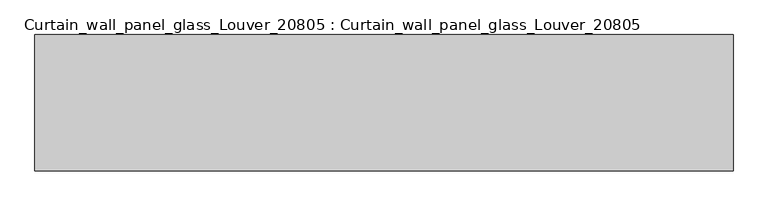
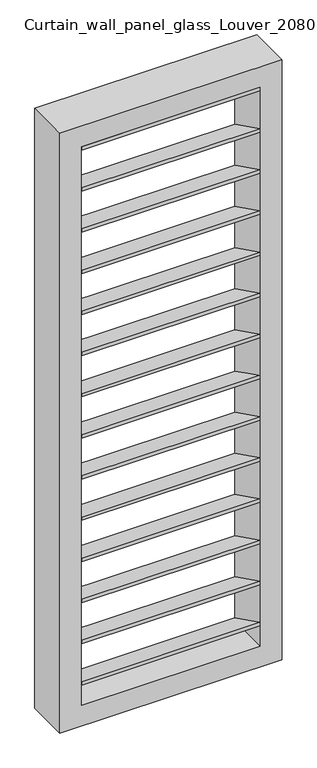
"""IFC4 building model written with IfcOpenShell, lengths in millimetres: plate geometry, Curtain_wall_panel_glass_Louver_20805 : Curtain_wall_panel_glass_Louver_20805."""

import ifcopenshell
import ifcopenshell.guid

model = None  # the IFC model being written
_history = None  # IfcOwnerHistory: only IFC2X3 demands one
_inside = {}  # id of a spatial element -> (the spatial element, [elements in it])
_under = {}  # id of a project, library or spatial element -> (it, [spatial elements below it])
_declared = {}  # id of a project -> (the project, [libraries it declares])
_typed = {}  # id of a type object -> (the type object, [elements of that type])
_made_of = {}  # id of a material, layer set ... -> (it, [elements and type objects made of it])


def new_model(schema):
    """Start an empty IFC model of exactly this schema.

    Asked for "IFC4X3", IfcOpenShell would pick the latest addendum, in which some entities
    have other attributes; the version numbers below select the first issue.
    IFC2X3 requires an IfcOwnerHistory on every rooted entity: one is made here for all.
    """
    global model, _history
    if schema == "IFC4X3":
        model = ifcopenshell.file(schema_version=(4, 3, 0, 0))
    else:
        model = ifcopenshell.file(schema=schema)
    _inside.clear()
    _under.clear()
    _declared.clear()
    _typed.clear()
    _made_of.clear()
    _history = None
    if model.schema == "IFC2X3":
        org = make("IfcOrganization", Name="unknown")
        user = make(
            "IfcPersonAndOrganization",
            ThePerson=make("IfcPerson", FamilyName="unknown"),
            TheOrganization=org,
        )
        app = make(
            "IfcApplication",
            ApplicationDeveloper=org,
            Version="unknown",
            ApplicationFullName="unknown",
            ApplicationIdentifier="unknown",
        )
        _history = make(
            "IfcOwnerHistory",
            OwningUser=user,
            OwningApplication=app,
            ChangeAction="ADDED",
            CreationDate=0,
        )
    return model


def make(cls, **values):
    """One entity of the class cls with the attributes given. An attribute that is None is left unset."""
    return model.create_entity(
        cls, **{name: value for name, value in values.items() if value is not None}
    )


def rooted(cls, **values):
    """An entity with a GlobalId (a new one), such as an element, a storey or a relation."""
    return make(cls, GlobalId=ifcopenshell.guid.new(), OwnerHistory=_history, **values)


def si_unit(unit_type, name, prefix=None):
    """IfcSIUnit, for example si_unit("LENGTHUNIT", "METRE", prefix="MILLI")."""
    return make("IfcSIUnit", UnitType=unit_type, Prefix=prefix, Name=name)


def assignment(units):
    """IfcUnitAssignment: the units of a project."""
    return None if units is None else make("IfcUnitAssignment", Units=units)


def point(xyz):
    """IfcCartesianPoint."""
    return None if xyz is None else make("IfcCartesianPoint", Coordinates=xyz)


def direction(xyz):
    """IfcDirection."""
    return None if xyz is None else make("IfcDirection", DirectionRatios=xyz)


def frame(location, z_axis=None, x_axis=None):
    """IfcAxis2Placement3D, a coordinate frame: its origin and axes. An axis left out is left unset."""
    return make(
        "IfcAxis2Placement3D",
        Location=point(location),
        Axis=direction(z_axis),
        RefDirection=direction(x_axis),
    )


def origin():
    """The frame at (0, 0, 0) with its axes left unset."""
    return frame((0.0, 0.0, 0.0))


def place(relative_to, where):
    """IfcLocalPlacement: puts the frame where relative to a parent placement (None: the world)."""
    return make(
        "IfcLocalPlacement", PlacementRelTo=relative_to, RelativePlacement=where
    )


def context(
    kind, dimensions, precision=None, world=None, true_north=None, identifier=None
):
    """IfcGeometricRepresentationContext, for example the 3D "Model" context."""
    return make(
        "IfcGeometricRepresentationContext",
        ContextIdentifier=identifier,
        ContextType=kind,
        CoordinateSpaceDimension=dimensions,
        Precision=precision,
        WorldCoordinateSystem=world,
        TrueNorth=true_north,
    )


def project(units=None, contexts=None):
    """IfcProject with its units and contexts."""
    return rooted(
        "IfcProject",
        Name="project",
        RepresentationContexts=contexts,
        UnitsInContext=assignment(units),
    )


def spatial(cls, under=None, at=None, **own):
    """A site, building, storey or space (cls), placed at a placement, below another one or the project."""
    s = rooted(cls, ObjectPlacement=at, **own)
    if under is not None:
        _under.setdefault(under.id(), (under, []))[1].append(s)
    return s


def polyline(points):
    """IfcPolyline through the points."""
    return make("IfcPolyline", Points=[point(p) for p in points])


def outline(outer, holes=None, kind="AREA"):
    """IfcArbitraryClosedProfileDef: a profile drawn as a closed curve; with holes, ...WithVoids."""
    if holes is None:
        return make("IfcArbitraryClosedProfileDef", ProfileType=kind, OuterCurve=outer)
    return make(
        "IfcArbitraryProfileDefWithVoids",
        ProfileType=kind,
        OuterCurve=outer,
        InnerCurves=holes,
    )


def extrude(swept, where, along, depth):
    """IfcExtrudedAreaSolid: the profile swept, set in the frame where, extruded along a direction by depth."""
    return make(
        "IfcExtrudedAreaSolid",
        SweptArea=swept,
        Position=where,
        ExtrudedDirection=direction(along),
        Depth=depth,
    )


def shape(context_of_items, identifier, shape_type, items):
    """IfcShapeRepresentation: the items that make up one representation, for example the "Body"."""
    return make(
        "IfcShapeRepresentation",
        ContextOfItems=context_of_items,
        RepresentationIdentifier=identifier,
        RepresentationType=shape_type,
        Items=items,
    )


def source(mapping_origin, context_of_items, identifier, shape_type, items):
    """IfcRepresentationMap: a shape defined once, which mapped items show again and again."""
    return make(
        "IfcRepresentationMap",
        MappingOrigin=mapping_origin,
        MappedRepresentation=shape(context_of_items, identifier, shape_type, items),
    )


def transform(
    local_origin,
    x_axis=None,
    y_axis=None,
    z_axis=None,
    scale=None,
    scale2=None,
    scale3=None,
    uniform=True,
):
    """IfcCartesianTransformationOperator3D, or its non-uniform kind. x_axis, y_axis, z_axis: its Axis1, 2, 3."""
    if uniform:
        return make(
            "IfcCartesianTransformationOperator3D",
            Axis1=direction(x_axis),
            Axis2=direction(y_axis),
            LocalOrigin=point(local_origin),
            Scale=scale,
            Axis3=direction(z_axis),
        )
    return make(
        "IfcCartesianTransformationOperator3DnonUniform",
        Axis1=direction(x_axis),
        Axis2=direction(y_axis),
        LocalOrigin=point(local_origin),
        Scale=scale,
        Axis3=direction(z_axis),
        Scale2=scale2,
        Scale3=scale3,
    )


def mapped(mapping_source, mapping_target):
    """IfcMappedItem: shows the shape of a source again, moved by a transform."""
    return make(
        "IfcMappedItem", MappingSource=mapping_source, MappingTarget=mapping_target
    )


def made_of(thing, what):
    """Note that an element or type object is made of a material, layer set ...; save() writes the relation."""
    if what is not None:
        _made_of.setdefault(what.id(), (what, []))[1].append(thing)
    return thing


def element(
    cls,
    number,
    at=None,
    inside=None,
    cuts=None,
    type_object=None,
    material=None,
    context=None,
    identifier="Body",
    shape_type=None,
    held_by="IfcProductDefinitionShape",
    body=None,
    shapes=None,
    **own,
):
    """One element of the class cls, such as IfcWall. Its Tag is "e" and its number.

    at: its placement. inside: the storey or other place that contains it. cuts: it is an
    opening in that element (IfcRelVoidsElement). A single representation is given by context,
    identifier, shape_type and body (its items); several are given by shapes. held_by: the class
    of the entity that holds the representations. save() writes the other relations.
    """
    e = rooted(cls, Tag="e%d" % number, ObjectPlacement=at, **own)
    if body is not None:
        shapes = [shape(context, identifier, shape_type, body)]
    if shapes is not None:
        e.Representation = make(held_by, Representations=shapes)
    if inside is not None:
        _inside.setdefault(inside.id(), (inside, []))[1].append(e)
    if cuts is not None:
        rooted(
            "IfcRelVoidsElement", RelatingBuildingElement=cuts, RelatedOpeningElement=e
        )
    if type_object is not None:
        _typed.setdefault(type_object.id(), (type_object, []))[1].append(e)
    return made_of(e, material)


def aggregate(whole, parts):
    """IfcRelAggregates: a whole, such as a stair, and the parts it consists of."""
    return rooted("IfcRelAggregates", RelatingObject=whole, RelatedObjects=parts)


def save(model, path):
    """Write the relations noted so far, then the file.

    IfcRelAggregates (storeys below a building ...), IfcRelContainedInSpatialStructure (elements
    in a storey), IfcRelDefinesByType, IfcRelAssociatesMaterial and IfcRelDeclares: one each for
    every whole, place, type object, material and project.
    """
    for whole, parts in _under.values():
        aggregate(whole, parts)
    for where, things in _inside.values():
        rooted(
            "IfcRelContainedInSpatialStructure",
            RelatedElements=things,
            RelatingStructure=where,
        )
    for kind, things in _typed.values():
        rooted("IfcRelDefinesByType", RelatedObjects=things, RelatingType=kind)
    for what, things in _made_of.values():
        rooted("IfcRelAssociatesMaterial", RelatedObjects=things, RelatingMaterial=what)
    for by, libraries in _declared.values():
        rooted("IfcRelDeclares", RelatingContext=by, RelatedDefinitions=libraries)
    model.write(path)


def curtain_wall_panel_glass_louver_20805_curtain_wall_panel_a4448eae(model_context):
    return source(origin(), model_context, "Body", "SweptSolid", [
        extrude(outline(polyline([(-200.0, 199.3849981), (-200.0, 216.1349309), (0.0, 116.7499328), (0.0, 100.0), (-200.0, 199.3849981)])), frame((-412.5, 0.0, 0.0), z_axis=(1.0, 0.0, 0.0), x_axis=(0.0, 1.0, 0.0)), (0.0, 0.0, 1.0), 825.0),
        extrude(outline(polyline([(-200.0, 2808.2500672), (-200.0, 2825.0), (0.0, 2725.6150019), (0.0, 2708.8650691), (-200.0, 2808.2500672)])), frame((-412.5, 0.0, 0.0), z_axis=(1.0, 0.0, 0.0), x_axis=(0.0, 1.0, 0.0)), (0.0, 0.0, 1.0), 825.0),
        extrude(outline(polyline([(-200.0, 400.0669265), (-200.0, 416.8168593), (0.0, 317.4318612), (0.0, 300.6819284), (-200.0, 400.0669265)])), frame((-412.5, 0.0, 0.0), z_axis=(1.0, 0.0, 0.0), x_axis=(0.0, 1.0, 0.0)), (0.0, 0.0, 1.0), 825.0),
        extrude(outline(polyline([(-200.0, 600.7488549), (-200.0, 617.4987877), (0.0, 518.1137896), (0.0, 501.3638568), (-200.0, 600.7488549)])), frame((-412.5, 0.0, 0.0), z_axis=(1.0, 0.0, 0.0), x_axis=(0.0, 1.0, 0.0)), (0.0, 0.0, 1.0), 825.0),
        extrude(outline(polyline([(-200.0, 801.4307833), (-200.0, 818.1807161), (0.0, 718.795718), (0.0, 702.0457852), (-200.0, 801.4307833)])), frame((-412.5, 0.0, 0.0), z_axis=(1.0, 0.0, 0.0), x_axis=(0.0, 1.0, 0.0)), (0.0, 0.0, 1.0), 825.0),
        extrude(outline(polyline([(-200.0, 1002.1127117), (-200.0, 1018.8626445), (0.0, 919.4776464), (0.0, 902.7277136), (-200.0, 1002.1127117)])), frame((-412.5, 0.0, 0.0), z_axis=(1.0, 0.0, 0.0), x_axis=(0.0, 1.0, 0.0)), (0.0, 0.0, 1.0), 825.0),
        extrude(outline(polyline([(-200.0, 1202.79464), (-200.0, 1219.5445729), (0.0, 1120.1595748), (0.0, 1103.4096419), (-200.0, 1202.79464)])), frame((-412.5, 0.0, 0.0), z_axis=(1.0, 0.0, 0.0), x_axis=(0.0, 1.0, 0.0)), (0.0, 0.0, 1.0), 825.0),
        extrude(outline(polyline([(-200.0, 1403.4765684), (-200.0, 1420.2265013), (0.0, 1320.8415032), (0.0, 1304.0915703), (-200.0, 1403.4765684)])), frame((-412.5, 0.0, 0.0), z_axis=(1.0, 0.0, 0.0), x_axis=(0.0, 1.0, 0.0)), (0.0, 0.0, 1.0), 825.0),
        extrude(outline(polyline([(-200.0, 1604.1584968), (-200.0, 1620.9084297), (0.0, 1521.5234316), (0.0, 1504.7734987), (-200.0, 1604.1584968)])), frame((-412.5, 0.0, 0.0), z_axis=(1.0, 0.0, 0.0), x_axis=(0.0, 1.0, 0.0)), (0.0, 0.0, 1.0), 825.0),
        extrude(outline(polyline([(-200.0, 1804.8404252), (-200.0, 1821.5903581), (0.0, 1722.20536), (0.0, 1705.4554271), (-200.0, 1804.8404252)])), frame((-412.5, 0.0, 0.0), z_axis=(1.0, 0.0, 0.0), x_axis=(0.0, 1.0, 0.0)), (0.0, 0.0, 1.0), 825.0),
        extrude(outline(polyline([(-200.0, 2005.5223536), (-200.0, 2022.2722864), (0.0, 1922.8872883), (0.0, 1906.1373555), (-200.0, 2005.5223536)])), frame((-412.5, 0.0, 0.0), z_axis=(1.0, 0.0, 0.0), x_axis=(0.0, 1.0, 0.0)), (0.0, 0.0, 1.0), 825.0),
        extrude(outline(polyline([(-200.0, 2206.204282), (-200.0, 2222.9542148), (0.0, 2123.5692167), (0.0, 2106.8192839), (-200.0, 2206.204282)])), frame((-412.5, 0.0, 0.0), z_axis=(1.0, 0.0, 0.0), x_axis=(0.0, 1.0, 0.0)), (0.0, 0.0, 1.0), 825.0),
        extrude(outline(polyline([(-200.0, 2406.8862104), (-200.0, 2423.6361432), (0.0, 2324.2511451), (0.0, 2307.5012123), (-200.0, 2406.8862104)])), frame((-412.5, 0.0, 0.0), z_axis=(1.0, 0.0, 0.0), x_axis=(0.0, 1.0, 0.0)), (0.0, 0.0, 1.0), 825.0),
        extrude(outline(polyline([(-200.0, 2607.5681388), (-200.0, 2624.3180716), (0.0, 2524.9330735), (0.0, 2508.1831407), (-200.0, 2607.5681388)])), frame((-412.5, 0.0, 0.0), z_axis=(1.0, 0.0, 0.0), x_axis=(0.0, 1.0, 0.0)), (0.0, 0.0, 1.0), 825.0),
        extrude(outline(polyline([(2925.0, -512.5), (0.0, -512.5), (0.0, 512.5), (2925.0, 512.5), (2925.0, -512.5)]), holes=[polyline([(2825.0, -412.5), (2825.0, 412.5), (100.0, 412.5), (100.0, -412.5), (2825.0, -412.5)])]), frame((0.0, -200.0, 0.0), z_axis=(0.0, 1.0, 0.0), x_axis=(0.0, 0.0, 1.0)), (0.0, 0.0, 1.0), 200.0),
    ])


if __name__ == "__main__":
    model = new_model("IFC4")
    model_context = context("Model", 3, world=origin())
    ifc_project = project(units=[si_unit("LENGTHUNIT", "METRE", prefix="MILLI")], contexts=[model_context])
    site = spatial("IfcSite", under=ifc_project)
    building = spatial("IfcBuilding", under=site)
    placement = place(None, origin())
    curtain_wall_panel_glass_louver_20805_curtain_wall_panel_shape = curtain_wall_panel_glass_louver_20805_curtain_wall_panel_a4448eae(model_context)
    element("IfcPlate", 1, ObjectType="Curtain_wall_panel_glass_Louver_20805 : Curtain_wall_panel_glass_Louver_20805", at=placement, inside=building, context=model_context, shape_type="MappedRepresentation", body=[
        mapped(curtain_wall_panel_glass_louver_20805_curtain_wall_panel_shape, transform((0.0, 0.0, 0.0), x_axis=(1.0, 0.0, 0.0), y_axis=(0.0, 1.0, 0.0), z_axis=(0.0, 0.0, 1.0))),
    ])
    save(model, "model.ifc")
